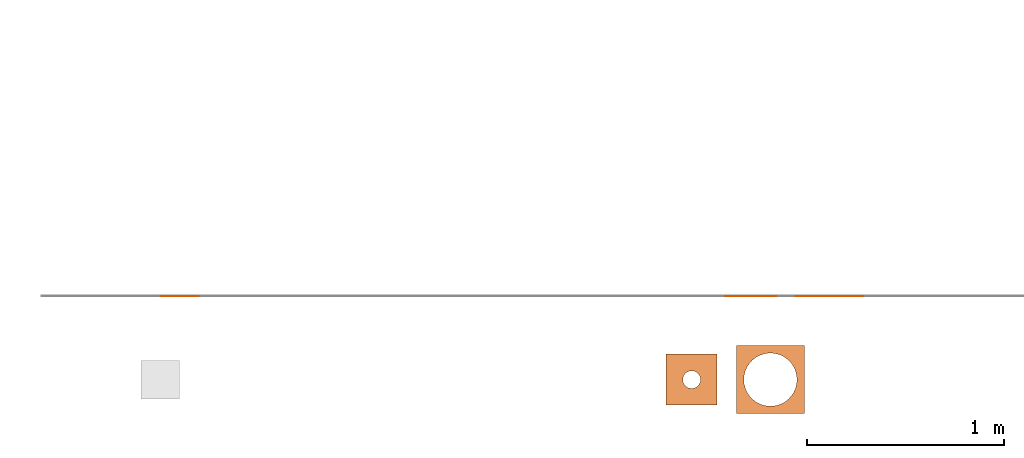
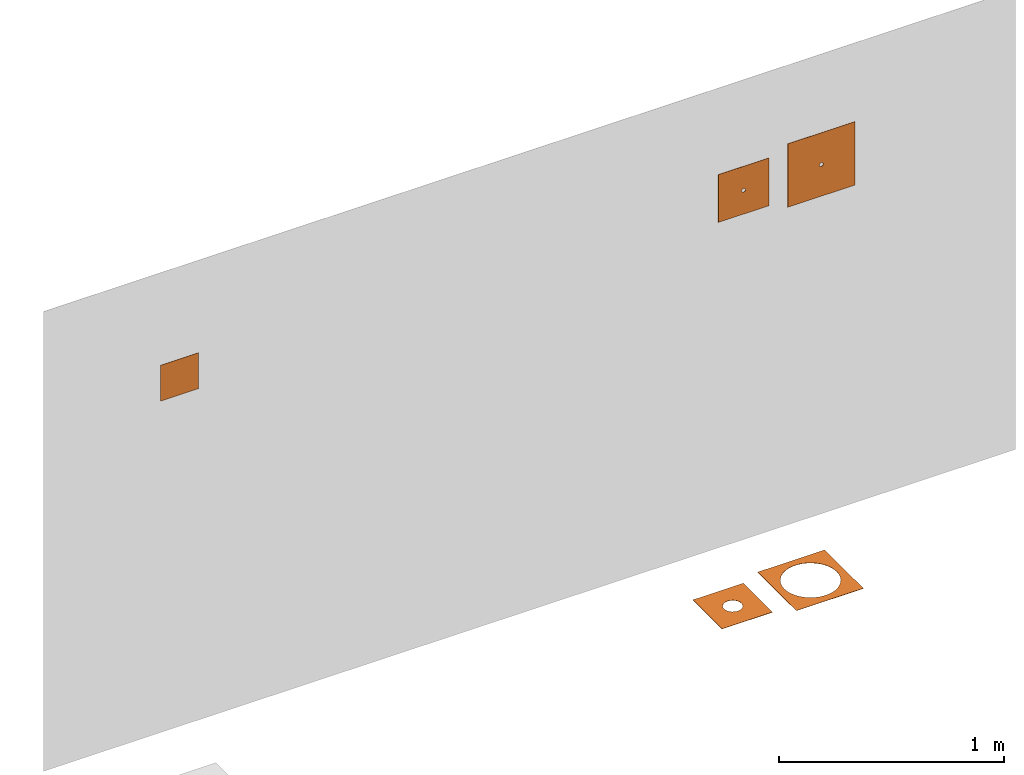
# One storey, part 3 of 3: 5 proxies.
"""IFC2X3 building model written with IfcOpenShell, lengths in millimetres."""

import ifcopenshell
import ifcopenshell.guid

model = None  # the IFC model being written
_history = None  # IfcOwnerHistory: only IFC2X3 demands one
_inside = {}  # id of a spatial element -> (the spatial element, [elements in it])
_under = {}  # id of a project, library or spatial element -> (it, [spatial elements below it])
_declared = {}  # id of a project -> (the project, [libraries it declares])
_typed = {}  # id of a type object -> (the type object, [elements of that type])
_made_of = {}  # id of a material, layer set ... -> (it, [elements and type objects made of it])


def new_model(schema):
    """Start an empty IFC model of exactly this schema.

    Asked for "IFC4X3", IfcOpenShell would pick the latest addendum, in which some entities
    have other attributes; the version numbers below select the first issue.
    IFC2X3 requires an IfcOwnerHistory on every rooted entity: one is made here for all.
    """
    global model, _history
    if schema == "IFC4X3":
        model = ifcopenshell.file(schema_version=(4, 3, 0, 0))
    else:
        model = ifcopenshell.file(schema=schema)
    _inside.clear()
    _under.clear()
    _declared.clear()
    _typed.clear()
    _made_of.clear()
    _history = None
    if model.schema == "IFC2X3":
        org = make("IfcOrganization", Name="unknown")
        user = make(
            "IfcPersonAndOrganization",
            ThePerson=make("IfcPerson", FamilyName="unknown"),
            TheOrganization=org,
        )
        app = make(
            "IfcApplication",
            ApplicationDeveloper=org,
            Version="unknown",
            ApplicationFullName="unknown",
            ApplicationIdentifier="unknown",
        )
        _history = make(
            "IfcOwnerHistory",
            OwningUser=user,
            OwningApplication=app,
            ChangeAction="ADDED",
            CreationDate=0,
        )
    return model


def make(cls, **values):
    """One entity of the class cls with the attributes given. An attribute that is None is left unset."""
    return model.create_entity(
        cls, **{name: value for name, value in values.items() if value is not None}
    )


def entity(cls, *values):
    """Any entity or typed value of the class cls, its attributes in the order of the schema. None: left unset."""
    e = model.create_entity(cls)
    for i, value in enumerate(values):
        if value is not None:
            e[i] = value
    return e


def rooted(cls, **values):
    """An entity with a GlobalId (a new one), such as an element, a storey or a relation."""
    return make(cls, GlobalId=ifcopenshell.guid.new(), OwnerHistory=_history, **values)


def si_unit(unit_type, name, prefix=None):
    """IfcSIUnit, for example si_unit("LENGTHUNIT", "METRE", prefix="MILLI")."""
    return make("IfcSIUnit", UnitType=unit_type, Prefix=prefix, Name=name)


def converted_unit(unit_type, name, factor, base, dimensions=None, offset=None):
    """IfcConversionBasedUnit, such as the inch: factor (a typed value) times the base unit."""
    return make(
        "IfcConversionBasedUnit"
        if offset is None
        else "IfcConversionBasedUnitWithOffset",
        ConversionOffset=offset,
        Dimensions=None
        if dimensions is None
        else entity("IfcDimensionalExponents", *dimensions),
        UnitType=unit_type,
        Name=name,
        ConversionFactor=make(
            "IfcMeasureWithUnit", ValueComponent=factor, UnitComponent=base
        ),
    )


def derived_unit(unit_type, elements):
    """IfcDerivedUnit: a product of units, each with its exponent."""
    return make(
        "IfcDerivedUnit",
        Elements=[
            make("IfcDerivedUnitElement", Unit=unit, Exponent=power)
            for unit, power in elements
        ],
        UnitType=unit_type,
    )


def assignment(units):
    """IfcUnitAssignment: the units of a project."""
    return None if units is None else make("IfcUnitAssignment", Units=units)


def point(xyz):
    """IfcCartesianPoint."""
    return None if xyz is None else make("IfcCartesianPoint", Coordinates=xyz)


def direction(xyz):
    """IfcDirection."""
    return None if xyz is None else make("IfcDirection", DirectionRatios=xyz)


def frame(location, z_axis=None, x_axis=None):
    """IfcAxis2Placement3D, a coordinate frame: its origin and axes. An axis left out is left unset."""
    return make(
        "IfcAxis2Placement3D",
        Location=point(location),
        Axis=direction(z_axis),
        RefDirection=direction(x_axis),
    )


def frame_2d(location, x_axis=None):
    """IfcAxis2Placement2D, a coordinate frame in the plane: its origin and x axis."""
    return make(
        "IfcAxis2Placement2D", Location=point(location), RefDirection=direction(x_axis)
    )


def origin():
    """The frame at (0, 0, 0) with its axes left unset."""
    return frame((0.0, 0.0, 0.0))


def origin_2d_with_axis():
    """The frame at (0, 0) in the plane with the x axis (1, 0) written out."""
    return frame_2d((0.0, 0.0), x_axis=(1.0, 0.0))


def place(relative_to, where):
    """IfcLocalPlacement: puts the frame where relative to a parent placement (None: the world)."""
    return make(
        "IfcLocalPlacement", PlacementRelTo=relative_to, RelativePlacement=where
    )


def context(
    kind, dimensions, precision=None, world=None, true_north=None, identifier=None
):
    """IfcGeometricRepresentationContext, for example the 3D "Model" context."""
    return make(
        "IfcGeometricRepresentationContext",
        ContextIdentifier=identifier,
        ContextType=kind,
        CoordinateSpaceDimension=dimensions,
        Precision=precision,
        WorldCoordinateSystem=world,
        TrueNorth=true_north,
    )


def subcontext(parent, identifier, kind, view, scale=None):
    """IfcGeometricRepresentationSubContext, for example "Body" below "Model"."""
    return make(
        "IfcGeometricRepresentationSubContext",
        ContextIdentifier=identifier,
        ContextType=kind,
        ParentContext=parent,
        TargetScale=scale,
        TargetView=view,
    )


def project(units=None, contexts=None):
    """IfcProject with its units and contexts."""
    return rooted(
        "IfcProject",
        Name="project",
        RepresentationContexts=contexts,
        UnitsInContext=assignment(units),
    )


def spatial(cls, under=None, at=None, **own):
    """A site, building, storey or space (cls), placed at a placement, below another one or the project."""
    s = rooted(cls, ObjectPlacement=at, **own)
    if under is not None:
        _under.setdefault(under.id(), (under, []))[1].append(s)
    return s


def polyline(points):
    """IfcPolyline through the points."""
    return make("IfcPolyline", Points=[point(p) for p in points])


def circle_curve(where, radius):
    """IfcCircle in the frame where."""
    return make("IfcCircle", Position=where, Radius=radius)


def parameter(value):
    """IfcParameterValue: where a trimmed curve begins or ends, as a parameter of its basis curve."""
    return model.create_entity("IfcParameterValue", value)


def trimmed(basis, trim1, trim2, sense, master):
    """IfcTrimmedCurve: the piece of a basis curve between two trims."""
    return make(
        "IfcTrimmedCurve",
        BasisCurve=basis,
        Trim1=trim1,
        Trim2=trim2,
        SenseAgreement=sense,
        MasterRepresentation=master,
    )


def segment(curve, same_sense, transition):
    """IfcCompositeCurveSegment."""
    return make(
        "IfcCompositeCurveSegment",
        Transition=transition,
        SameSense=same_sense,
        ParentCurve=curve,
    )


def composite_curve(segments, self_intersect=None):
    """IfcCompositeCurve: segments joined end to end."""
    return make("IfcCompositeCurve", Segments=segments, SelfIntersect=self_intersect)


def profile(cls, at=None, kind="AREA", **sizes):
    """A parametric profile (cls). Its sizes go by their IFC names, for example OverallWidth=200.0."""
    return make(cls, ProfileType=kind, Position=at, **sizes)


def rectangle(**sizes):
    """IfcRectangleProfileDef."""
    return profile("IfcRectangleProfileDef", **sizes)


def outline(outer, holes=None, kind="AREA"):
    """IfcArbitraryClosedProfileDef: a profile drawn as a closed curve; with holes, ...WithVoids."""
    if holes is None:
        return make("IfcArbitraryClosedProfileDef", ProfileType=kind, OuterCurve=outer)
    return make(
        "IfcArbitraryProfileDefWithVoids",
        ProfileType=kind,
        OuterCurve=outer,
        InnerCurves=holes,
    )


def extrude(swept, where, along, depth):
    """IfcExtrudedAreaSolid: the profile swept, set in the frame where, extruded along a direction by depth."""
    return make(
        "IfcExtrudedAreaSolid",
        SweptArea=swept,
        Position=where,
        ExtrudedDirection=direction(along),
        Depth=depth,
    )


def shape(context_of_items, identifier, shape_type, items):
    """IfcShapeRepresentation: the items that make up one representation, for example the "Body"."""
    return make(
        "IfcShapeRepresentation",
        ContextOfItems=context_of_items,
        RepresentationIdentifier=identifier,
        RepresentationType=shape_type,
        Items=items,
    )


def source(mapping_origin, context_of_items, identifier, shape_type, items):
    """IfcRepresentationMap: a shape defined once, which mapped items show again and again."""
    return make(
        "IfcRepresentationMap",
        MappingOrigin=mapping_origin,
        MappedRepresentation=shape(context_of_items, identifier, shape_type, items),
    )


def transform(
    local_origin,
    x_axis=None,
    y_axis=None,
    z_axis=None,
    scale=None,
    scale2=None,
    scale3=None,
    uniform=True,
):
    """IfcCartesianTransformationOperator3D, or its non-uniform kind. x_axis, y_axis, z_axis: its Axis1, 2, 3."""
    if uniform:
        return make(
            "IfcCartesianTransformationOperator3D",
            Axis1=direction(x_axis),
            Axis2=direction(y_axis),
            LocalOrigin=point(local_origin),
            Scale=scale,
            Axis3=direction(z_axis),
        )
    return make(
        "IfcCartesianTransformationOperator3DnonUniform",
        Axis1=direction(x_axis),
        Axis2=direction(y_axis),
        LocalOrigin=point(local_origin),
        Scale=scale,
        Axis3=direction(z_axis),
        Scale2=scale2,
        Scale3=scale3,
    )


def mapped(mapping_source, mapping_target):
    """IfcMappedItem: shows the shape of a source again, moved by a transform."""
    return make(
        "IfcMappedItem", MappingSource=mapping_source, MappingTarget=mapping_target
    )


def material(Name=None, Category=None):
    """IfcMaterial."""
    return make("IfcMaterial", Name=Name, Category=Category)


def made_of(thing, what):
    """Note that an element or type object is made of a material, layer set ...; save() writes the relation."""
    if what is not None:
        _made_of.setdefault(what.id(), (what, []))[1].append(thing)
    return thing


def type_object(cls, material=None, **own):
    """A type object (cls), such as IfcWallType, which elements share."""
    return made_of(rooted(cls, **own), material)


def type_shapes(of_type, sources):
    """Give a type object the sources (RepresentationMaps) that its elements show as mapped items."""
    of_type.RepresentationMaps = sources


def element(
    cls,
    number,
    at=None,
    inside=None,
    cuts=None,
    type_object=None,
    material=None,
    context=None,
    identifier="Body",
    shape_type=None,
    held_by="IfcProductDefinitionShape",
    body=None,
    shapes=None,
    **own,
):
    """One element of the class cls, such as IfcWall. Its Tag is "e" and its number.

    at: its placement. inside: the storey or other place that contains it. cuts: it is an
    opening in that element (IfcRelVoidsElement). A single representation is given by context,
    identifier, shape_type and body (its items); several are given by shapes. held_by: the class
    of the entity that holds the representations. save() writes the other relations.
    """
    e = rooted(cls, Tag="e%d" % number, ObjectPlacement=at, **own)
    if body is not None:
        shapes = [shape(context, identifier, shape_type, body)]
    if shapes is not None:
        e.Representation = make(held_by, Representations=shapes)
    if inside is not None:
        _inside.setdefault(inside.id(), (inside, []))[1].append(e)
    if cuts is not None:
        rooted(
            "IfcRelVoidsElement", RelatingBuildingElement=cuts, RelatedOpeningElement=e
        )
    if type_object is not None:
        _typed.setdefault(type_object.id(), (type_object, []))[1].append(e)
    return made_of(e, material)


def aggregate(whole, parts):
    """IfcRelAggregates: a whole, such as a stair, and the parts it consists of."""
    return rooted("IfcRelAggregates", RelatingObject=whole, RelatedObjects=parts)


def save(model, path):
    """Write the relations noted so far, then the file.

    IfcRelAggregates (storeys below a building ...), IfcRelContainedInSpatialStructure (elements
    in a storey), IfcRelDefinesByType, IfcRelAssociatesMaterial and IfcRelDeclares: one each for
    every whole, place, type object, material and project.
    """
    for whole, parts in _under.values():
        aggregate(whole, parts)
    for where, things in _inside.values():
        rooted(
            "IfcRelContainedInSpatialStructure",
            RelatedElements=things,
            RelatingStructure=where,
        )
    for kind, things in _typed.values():
        rooted("IfcRelDefinesByType", RelatedObjects=things, RelatingType=kind)
    for what, things in _made_of.values():
        rooted("IfcRelAssociatesMaterial", RelatedObjects=things, RelatingMaterial=what)
    for by, libraries in _declared.values():
        rooted("IfcRelDeclares", RelatingContext=by, RelatedDefinitions=libraries)
    model.write(path)


model = new_model("IFC2X3")

# Units and contexts
model_context = context("Model", 3, precision=0.01, world=origin(), true_north=direction((6.12303176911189e-17, 1.0)))
body_context = subcontext(model_context, "Body", "Model", "MODEL_VIEW")
ifc_project = project(units=[si_unit("LENGTHUNIT", "METRE", prefix="MILLI"), si_unit("AREAUNIT", "SQUARE_METRE"), si_unit("VOLUMEUNIT", "CUBIC_METRE"), converted_unit("PLANEANGLEUNIT", "DEGREE", entity("IfcRatioMeasure", 0.0174532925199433), si_unit("PLANEANGLEUNIT", "RADIAN"), dimensions=[0, 0, 0, 0, 0, 0, 0]), si_unit("MASSUNIT", "GRAM", prefix="KILO"), derived_unit("MASSDENSITYUNIT", [(si_unit("MASSUNIT", "GRAM", prefix="KILO"), 1), (si_unit("LENGTHUNIT", "METRE"), -3)]), si_unit("TIMEUNIT", "SECOND"), si_unit("FREQUENCYUNIT", "HERTZ"), si_unit("THERMODYNAMICTEMPERATUREUNIT", "DEGREE_CELSIUS"), derived_unit("THERMALTRANSMITTANCEUNIT", [(si_unit("MASSUNIT", "GRAM", prefix="KILO"), 1), (si_unit("THERMODYNAMICTEMPERATUREUNIT", "KELVIN"), -1), (si_unit("TIMEUNIT", "SECOND"), -3)]), derived_unit("VOLUMETRICFLOWRATEUNIT", [(si_unit("LENGTHUNIT", "METRE"), 3), (si_unit("TIMEUNIT", "SECOND"), -1)]), si_unit("ELECTRICCURRENTUNIT", "AMPERE"), si_unit("ELECTRICVOLTAGEUNIT", "VOLT"), si_unit("POWERUNIT", "WATT"), si_unit("FORCEUNIT", "NEWTON", prefix="KILO"), si_unit("ILLUMINANCEUNIT", "LUX"), si_unit("LUMINOUSFLUXUNIT", "LUMEN"), si_unit("LUMINOUSINTENSITYUNIT", "CANDELA"), derived_unit("USERDEFINED", [(si_unit("MASSUNIT", "GRAM", prefix="KILO"), -1), (si_unit("LENGTHUNIT", "METRE"), -2), (si_unit("TIMEUNIT", "SECOND"), 3), (si_unit("LUMINOUSFLUXUNIT", "LUMEN"), 1)]), derived_unit("LINEARVELOCITYUNIT", [(si_unit("LENGTHUNIT", "METRE"), 1), (si_unit("TIMEUNIT", "SECOND"), -1)]), si_unit("PRESSUREUNIT", "PASCAL"), derived_unit("USERDEFINED", [(si_unit("LENGTHUNIT", "METRE"), -2), (si_unit("MASSUNIT", "GRAM", prefix="KILO"), 1), (si_unit("TIMEUNIT", "SECOND"), -2)])], contexts=[model_context])

# Site, building, storey
site_placement = place(None, origin())
site = spatial("IfcSite", under=ifc_project, at=site_placement, Name="Default", CompositionType="ELEMENT")
building_placement = place(site_placement, origin())
building = spatial("IfcBuilding", under=site, at=building_placement, CompositionType="ELEMENT")
storey_placement = place(building_placement, origin())
storey = spatial("IfcBuildingStorey", under=building, at=storey_placement, Name="Level 1", CompositionType="ELEMENT", Elevation=0.0)

# Proxies
ifc_material = material(Name="DAFA Hitack")
building_element_proxy_type_1 = type_object("IfcBuildingElementProxyType", Name="Type 260", PredefinedType="NOTDEFINED", material=ifc_material)
shared_shape_1 = source(origin(), body_context, "Body", "SweptSolid", [
    extrude(outline(polyline([(-130.0, -130.0), (130.0, -130.0), (130.0, 130.0), (-130.0, 130.0), (-130.0, -130.0)]), holes=[composite_curve([segment(trimmed(circle_curve(frame_2d((0.0, 0.0), x_axis=(-1.0, 0.0)), 45.0), [parameter(180.0)], [parameter(360.0)], True, "PARAMETER"), False, "CONTINUOUS"), segment(trimmed(circle_curve(frame_2d((0.0, 0.0), x_axis=(-1.0, 0.0)), 45.0), [parameter(3.56222124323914e-13)], [parameter(180.0)], True, "PARAMETER"), False, "CONTINUOUS")], self_intersect=False)]), frame((0.0, 0.0, 0.0), z_axis=(0.0, 0.0, 1.0), x_axis=(-1.0, 0.0, 0.0)), (0.0, 0.0, 1.0), 1.2),
])
type_shapes(building_element_proxy_type_1, [shared_shape_1])
proxy_1_placement = place(storey_placement, frame((-4518.832599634, 13593.9384218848, 0.0)))
element("IfcBuildingElementProxy", 1, at=proxy_1_placement, inside=storey, type_object=building_element_proxy_type_1, material=ifc_material, Name="Dafa_Hi-tack_Pipe_Collar:Type 260", ObjectType="Dafa_Hi-tack_Pipe_Collar:Type 260", context=body_context, shape_type="MappedRepresentation", body=[
    mapped(shared_shape_1, transform((0.0, 0.0, 0.0), scale=1.0)),
])
building_element_proxy_type_2 = type_object("IfcBuildingElementProxyType", Name="Type 345", PredefinedType="NOTDEFINED", material=ifc_material)
shared_shape_2 = source(origin(), body_context, "Body", "SweptSolid", [
    extrude(outline(polyline([(-172.5, -172.499999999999), (172.5, -172.499999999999), (172.5, 172.499999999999), (-172.5, 172.499999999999), (-172.5, -172.499999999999)]), holes=[composite_curve([segment(trimmed(circle_curve(frame_2d((0.0, 0.0), x_axis=(-1.0, 0.0)), 135.0), [parameter(180.0)], [parameter(360.0)], True, "PARAMETER"), False, "CONTINUOUS"), segment(trimmed(circle_curve(frame_2d((0.0, 0.0), x_axis=(-1.0, 0.0)), 135.0), [parameter(3.56222124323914e-13)], [parameter(180.0)], True, "PARAMETER"), False, "CONTINUOUS")], self_intersect=False)]), frame((0.0, 0.0, 0.0), z_axis=(0.0, 0.0, 1.0), x_axis=(-1.0, 0.0, 0.0)), (0.0, 0.0, 1.0), 1.2),
])
type_shapes(building_element_proxy_type_2, [shared_shape_2])
proxy_2_placement = place(storey_placement, frame((-4118.832599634, 13593.9384218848, 0.0)))
element("IfcBuildingElementProxy", 2, at=proxy_2_placement, inside=storey, type_object=building_element_proxy_type_2, material=ifc_material, Name="Dafa_Hi-tack_Pipe_Collar:Type 345", ObjectType="Dafa_Hi-tack_Pipe_Collar:Type 345", context=body_context, shape_type="MappedRepresentation", body=[
    mapped(shared_shape_2, transform((0.0, 0.0, 0.0), scale=1.0)),
])
building_element_proxy_type_3 = type_object("IfcBuildingElementProxyType", Name="Type 260", PredefinedType="NOTDEFINED", material=ifc_material)
shared_shape_3 = source(origin(), body_context, "Body", "SweptSolid", [
    extrude(outline(polyline([(-130.0, -130.0), (130.0, -130.0), (130.0, 130.0), (-130.0, 130.0), (-130.0, -130.0)]), holes=[composite_curve([segment(trimmed(circle_curve(frame_2d((0.0, 0.0), x_axis=(-1.0, 0.0)), 10.0), [parameter(180.0)], [parameter(360.0)], True, "PARAMETER"), False, "CONTINUOUS"), segment(trimmed(circle_curve(frame_2d((0.0, 0.0), x_axis=(-1.0, 0.0)), 10.0), [parameter(3.05333249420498e-13)], [parameter(180.0)], True, "PARAMETER"), False, "CONTINUOUS")], self_intersect=False)]), frame((0.0, 0.0, 0.0), z_axis=(0.0, 0.0, 1.0), x_axis=(-1.0, 0.0, 0.0)), (0.0, 0.0, 1.0), 1.2),
])
type_shapes(building_element_proxy_type_3, [shared_shape_3])
proxy_3_placement = place(storey_placement, frame((-4218.832599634, 14018.4384218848, 1900.0), z_axis=(0.0, -1.0, 0.0), x_axis=(0.0, 0.0, -1.0)))
element("IfcBuildingElementProxy", 3, at=proxy_3_placement, inside=storey, type_object=building_element_proxy_type_3, material=ifc_material, Name="Dafa_Hi-tack_Pipe_Collar_FaceBased:Type 260", ObjectType="Dafa_Hi-tack_Pipe_Collar_FaceBased:Type 260", context=body_context, shape_type="MappedRepresentation", body=[
    mapped(shared_shape_3, transform((0.0, 0.0, 0.0), scale=1.0)),
])
building_element_proxy_type_4 = type_object("IfcBuildingElementProxyType", Name="Type 345", PredefinedType="NOTDEFINED", material=ifc_material)
shared_shape_4 = source(origin(), body_context, "Body", "SweptSolid", [
    extrude(outline(polyline([(-172.5, -172.499999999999), (172.5, -172.499999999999), (172.5, 172.499999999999), (-172.5, 172.499999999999), (-172.5, -172.499999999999)]), holes=[composite_curve([segment(trimmed(circle_curve(frame_2d((0.0, 0.0), x_axis=(-1.0, 0.0)), 10.0), [parameter(180.0)], [parameter(360.0)], True, "PARAMETER"), False, "CONTINUOUS"), segment(trimmed(circle_curve(frame_2d((0.0, 0.0), x_axis=(-1.0, 0.0)), 10.0), [parameter(3.05333249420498e-13)], [parameter(180.0)], True, "PARAMETER"), False, "CONTINUOUS")], self_intersect=False)]), frame((0.0, 0.0, 0.0), z_axis=(0.0, 0.0, 1.0), x_axis=(-1.0, 0.0, 0.0)), (0.0, 0.0, 1.0), 1.2),
])
type_shapes(building_element_proxy_type_4, [shared_shape_4])
proxy_4_placement = place(storey_placement, frame((-3818.832599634, 14018.4384218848, 1900.0), z_axis=(0.0, -1.0, 0.0), x_axis=(0.0, 0.0, -1.0)))
element("IfcBuildingElementProxy", 4, at=proxy_4_placement, inside=storey, type_object=building_element_proxy_type_4, material=ifc_material, Name="Dafa_Hi-tack_Pipe_Collar_FaceBased:Type 345", ObjectType="Dafa_Hi-tack_Pipe_Collar_FaceBased:Type 345", context=body_context, shape_type="MappedRepresentation", body=[
    mapped(shared_shape_4, transform((0.0, 0.0, 0.0), scale=1.0)),
])
building_element_proxy_type_5 = type_object("IfcBuildingElementProxyType", Name="Type 195", PredefinedType="NOTDEFINED", material=ifc_material)
shared_shape_5 = source(origin(), body_context, "Body", "SweptSolid", [
    extrude(rectangle(XDim=195.0, YDim=194.999999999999, at=origin_2d_with_axis()), frame((0.0, 0.0, 0.0), z_axis=(0.0, 0.0, 1.0), x_axis=(-1.0, 0.0, 0.0)), (0.0, 0.0, 1.0), 1.2),
])
type_shapes(building_element_proxy_type_5, [shared_shape_5])
proxy_5_placement = place(storey_placement, frame((-7118.832599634, 14018.4384218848, 1900.0), z_axis=(0.0, -1.0, 0.0), x_axis=(0.0, 0.0, -1.0)))
element("IfcBuildingElementProxy", 5, at=proxy_5_placement, inside=storey, type_object=building_element_proxy_type_5, material=ifc_material, Name="Dafa_Hi-tack_Cable_Collar_FaceBased:Type 195", ObjectType="Dafa_Hi-tack_Cable_Collar_FaceBased:Type 195", context=body_context, shape_type="MappedRepresentation", body=[
    mapped(shared_shape_5, transform((0.0, 0.0, 0.0), scale=1.0)),
])

save(model, "model.ifc")
